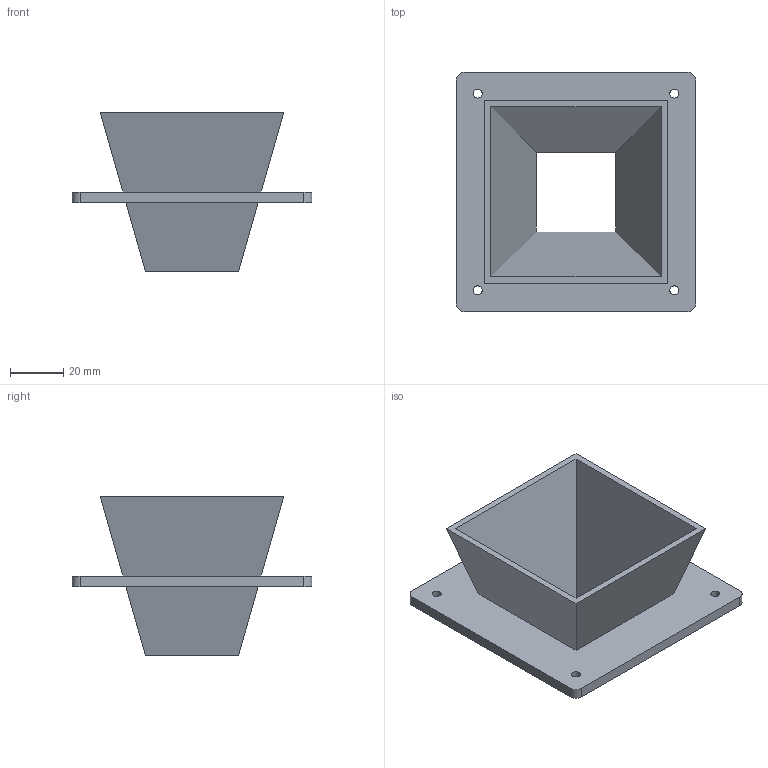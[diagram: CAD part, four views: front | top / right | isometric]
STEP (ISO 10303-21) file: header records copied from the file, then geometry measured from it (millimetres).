
FILE_DESCRIPTION(('Open CASCADE Model'),'2;1');
FILE_NAME('Open CASCADE Shape Model','2026-10-22T00:34:13',('Author'),( 'Open CASCADE'),'Open CASCADE STEP processor 7.8','Open CASCADE 7.8' ,'Unknown');
FILE_SCHEMA(('AUTOMOTIVE_DESIGN { 1 0 10303 214 1 1 1 1 }'));
Length unit declared in the file: millimetre
Products named in the file (1): Open CASCADE STEP translator 7.8 3
Bounding box: 90 x 90 x 60 mm (x, y, z)
Volume: 51508 mm3; surface area: 37361.6 mm2
Topology: 1 solids, 1 shells, 28 faces, 72 edges, 48 vertices
Faces by surface type: bspline 12, plane 8, cylinder 8
Full cylindrical faces by diameter (mm): 3.4 x4
Entity records: 1790 total; most frequent: CARTESIAN_POINT 465, DIRECTION 190, ORIENTED_EDGE 144, PCURVE 144, DEFINITIONAL_REPRESENTATION 144, LINE 120, VECTOR 120, EDGE_CURVE 72
